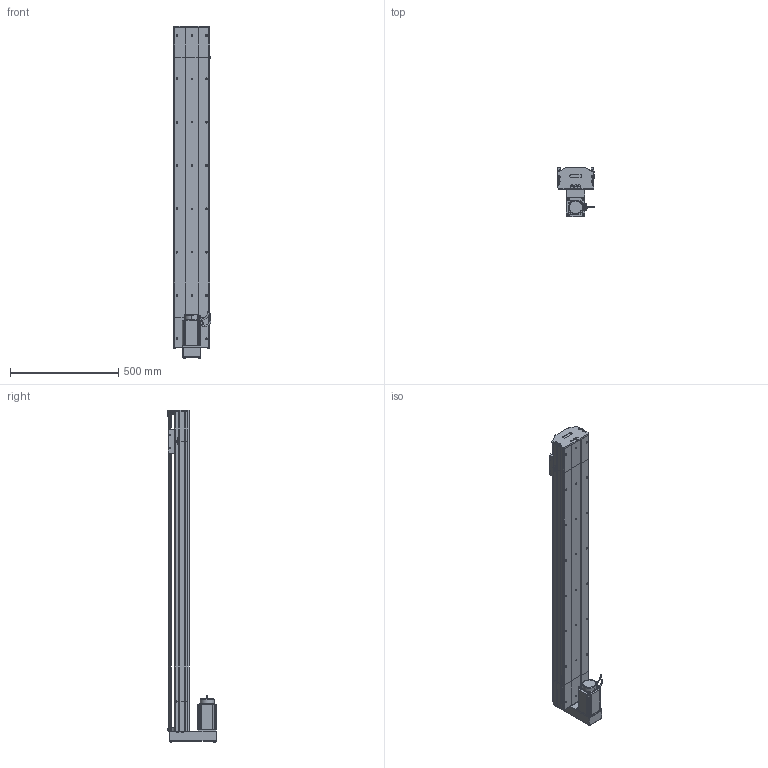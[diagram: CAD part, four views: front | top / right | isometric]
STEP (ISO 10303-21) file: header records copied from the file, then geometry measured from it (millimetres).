
FILE_DESCRIPTION (( 'STEP AP214' ), '1' );
FILE_NAME ('D17 TSN BM S1200.STEP', '2010-06-30T07:52:05', ( 'Christophe Gaillard' ), ( 'SGA' ), 'SwSTEP 2.0', 'SolidWorks 2010', '' );
FILE_SCHEMA (( 'AUTOMOTIVE_DESIGN' ));
Length unit declared in the file: millimetre
Products named in the file (33): Cvis M5 L70_Default; vis M5 L12_Default; Vis M5 L16-2_Default; Conecteur_Default; renvoi Bm_Default; Conecteur2_Default; codeur 90BLDC125-640; corps 90BLDC125A-640; Arbre+rail head D17; plaque de  bout BM head D17_Default; couvercle D17 head_Default; avant 90BLDC125A-640; Moteur motionking 90BLDC125A-640; vis M5 L5_Default; corpl head D17 BM_Default; head BM_Default; vis M5 L25_Default; vis M5 L8 90°_Default; guide D17; Chariot D17 TBN; chariot D17 TSN; arbre + rail D17 Course 1200 ; course 1200 D17_Default; D17 TSN BM S1200; Tail D17_Default; couvercle D17 course L1200_Default; corp D17 1200_Default; tete d''axe bas D17; plaque de  bout tail D17_Default; corpl tail D17_Default; couvercle D17_Default; Arbre+rail tail D17; tete d''axe haut D17
Assembly tree (51 placements, depth 4):
  D17 TSN BM S1200
    Tail D17_Default
      tete d''axe haut D17
      vis M5 L25_Default  x2
      Arbre+rail tail D17
      vis M5 L12_Default  x4
      corpl tail D17_Default
      vis M5 L8 90°_Default  x2
      couvercle D17_Default
      tete d''axe bas D17
      plaque de  bout tail D17_Default
    course 1200 D17_Default
      corp D17 1200_Default
      couvercle D17 course L1200_Default
      arbre + rail D17 Course 1200 
    chariot D17 TSN
      guide D17  x2
      Chariot D17 TBN
    head BM_Default
      vis M5 L5_Default  x2
      Cvis M5 L70_Default  x2
      vis M5 L12_Default  x8
      couvercle D17 head_Default
      Vis M5 L16-2_Default  x4
      Moteur motionking 90BLDC125A-640
        avant 90BLDC125A-640
        Conecteur_Default
        corps 90BLDC125A-640
        Conecteur2_Default
        codeur 90BLDC125-640
      Arbre+rail head D17
      renvoi Bm_Default
      plaque de  bout BM head D17_Default
      corpl head D17 BM_Default
Bounding box: 174.95 x 225.7 x 1532.7 mm (x, y, z)
Volume: 9639183.8 mm3; surface area: 2486303.3 mm2
Topology: 75 solids, 75 shells, 2153 faces, 5483 edges, 3544 vertices
Faces by surface type: plane 1322, cylinder 570, bspline 136, torus 65, cone 56, sphere 4
Entity records: 72336 total; most frequent: CARTESIAN_POINT 22796, ORIENTED_EDGE 8874, DIRECTION 8274, EDGE_CURVE 4437, LINE 3058, VECTOR 3058, VERTEX_POINT 2910, AXIS2_PLACEMENT_3D 2608
